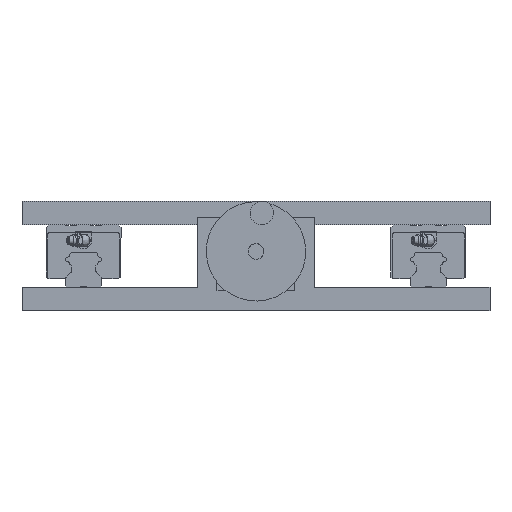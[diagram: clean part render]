
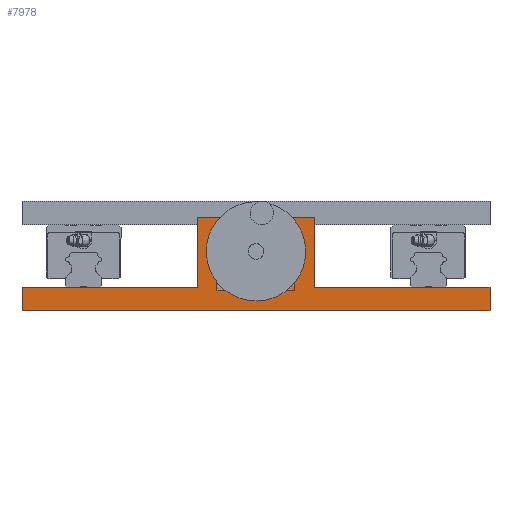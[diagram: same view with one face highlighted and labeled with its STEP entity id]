
A CAD part, front view. The second image highlights one B-rep face of the part: STEP entity #7978.
In plain terms, the highlighted planar face has unit normal (0, -1, 0).
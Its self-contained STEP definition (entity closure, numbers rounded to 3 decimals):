
#253 = EDGE_CURVE ( 'NONE', #56328, #46927, #52755, .T. ) ;
#443 = VECTOR ( 'NONE', #1271, 1000. ) ;
#868 = DIRECTION ( 'NONE',  ( 0., 0., -1. ) ) ;
#888 = VERTEX_POINT ( 'NONE', #60939 ) ;
#987 = DIRECTION ( 'NONE',  ( 0., 0., 1. ) ) ;
#1271 = DIRECTION ( 'NONE',  ( 0., 0., -1. ) ) ;
#1791 = VERTEX_POINT ( 'NONE', #61886 ) ;
#2612 = ORIENTED_EDGE ( 'NONE', *, *, #253, .F. ) ;
#3315 = DIRECTION ( 'NONE',  ( 0., 0., -1. ) ) ;
#3892 = EDGE_CURVE ( 'NONE', #32119, #888, #16204, .T. ) ;
#4120 = VECTOR ( 'NONE', #868, 1000. ) ;
#6223 = EDGE_LOOP ( 'NONE', ( #50605, #23091 ) ) ;
#7569 = VERTEX_POINT ( 'NONE', #28351 ) ;
#7978 = ADVANCED_FACE ( 'NONE', ( #68208, #54023 ), #32505, .F. ) ;
#8263 = LINE ( 'NONE', #58689, #55815 ) ;
#10223 = VECTOR ( 'NONE', #45923, 1000. ) ;
#10528 = ORIENTED_EDGE ( 'NONE', *, *, #20782, .F. ) ;
#11519 = DIRECTION ( 'NONE',  ( 0., 1., 0. ) ) ;
#14005 = CARTESIAN_POINT ( 'NONE',  ( -150., -166.5, 0. ) ) ;
#14101 = AXIS2_PLACEMENT_3D ( 'NONE', #64234, #54152, #32724 ) ;
#16034 = EDGE_LOOP ( 'NONE', ( #64115, #19926, #2612, #10528, #44721, #67369, #66351, #49034 ) ) ;
#16133 = VECTOR ( 'NONE', #3315, 1000. ) ;
#16204 = CIRCLE ( 'NONE', #14101, 5. ) ;
#18067 = CARTESIAN_POINT ( 'NONE',  ( 37.5, -166.5, 15. ) ) ;
#19749 = EDGE_CURVE ( 'NONE', #1791, #42549, #45293, .T. ) ;
#19926 = ORIENTED_EDGE ( 'NONE', *, *, #30913, .F. ) ;
#20782 = EDGE_CURVE ( 'NONE', #50425, #56328, #8263, .T. ) ;
#23091 = ORIENTED_EDGE ( 'NONE', *, *, #52927, .F. ) ;
#23372 = AXIS2_PLACEMENT_3D ( 'NONE', #32964, #27570, #987 ) ;
#25977 = DIRECTION ( 'NONE',  ( 1., 0., 0. ) ) ;
#27570 = DIRECTION ( 'NONE',  ( 0., -1., 0. ) ) ;
#27914 = DIRECTION ( 'NONE',  ( 1., 0., 0. ) ) ;
#28156 = CARTESIAN_POINT ( 'NONE',  ( 0., -166.5, 43. ) ) ;
#28351 = CARTESIAN_POINT ( 'NONE',  ( 150., -166.5, 0. ) ) ;
#30318 = LINE ( 'NONE', #45264, #16133 ) ;
#30913 = EDGE_CURVE ( 'NONE', #46927, #7569, #52119, .T. ) ;
#31216 = LINE ( 'NONE', #58644, #65390 ) ;
#32119 = VERTEX_POINT ( 'NONE', #28156 ) ;
#32505 = PLANE ( 'NONE',  #64041 ) ;
#32724 = DIRECTION ( 'NONE',  ( 0., 0., 1. ) ) ;
#32964 = CARTESIAN_POINT ( 'NONE',  ( 0., -166.5, 38. ) ) ;
#34674 = EDGE_CURVE ( 'NONE', #50814, #7569, #31216, .T. ) ;
#37047 = EDGE_CURVE ( 'NONE', #43713, #50425, #54343, .T. ) ;
#37501 = CARTESIAN_POINT ( 'NONE',  ( -37.5, -166.5, 60. ) ) ;
#38107 = CARTESIAN_POINT ( 'NONE',  ( -150., -166.5, 15. ) ) ;
#39512 = DIRECTION ( 'NONE',  ( 1., 0., 0. ) ) ;
#42549 = VERTEX_POINT ( 'NONE', #63130 ) ;
#42809 = EDGE_CURVE ( 'NONE', #1791, #50814, #30318, .T. ) ;
#43194 = DIRECTION ( 'NONE',  ( 0., 0., 1. ) ) ;
#43713 = VERTEX_POINT ( 'NONE', #37501 ) ;
#44721 = ORIENTED_EDGE ( 'NONE', *, *, #37047, .F. ) ;
#45264 = CARTESIAN_POINT ( 'NONE',  ( -150., -166.5, 15. ) ) ;
#45293 = LINE ( 'NONE', #52090, #61977 ) ;
#45849 = LINE ( 'NONE', #64778, #4120 ) ;
#45923 = DIRECTION ( 'NONE',  ( 1., 0., 0. ) ) ;
#46927 = VERTEX_POINT ( 'NONE', #57340 ) ;
#49034 = ORIENTED_EDGE ( 'NONE', *, *, #42809, .T. ) ;
#50425 = VERTEX_POINT ( 'NONE', #66946 ) ;
#50605 = ORIENTED_EDGE ( 'NONE', *, *, #3892, .F. ) ;
#50814 = VERTEX_POINT ( 'NONE', #14005 ) ;
#52090 = CARTESIAN_POINT ( 'NONE',  ( -150., -166.5, 15. ) ) ;
#52119 = LINE ( 'NONE', #59099, #443 ) ;
#52755 = LINE ( 'NONE', #57561, #10223 ) ;
#52927 = EDGE_CURVE ( 'NONE', #888, #32119, #65415, .T. ) ;
#54023 = FACE_OUTER_BOUND ( 'NONE', #16034, .T. ) ;
#54152 = DIRECTION ( 'NONE',  ( 0., -1., 0. ) ) ;
#54343 = LINE ( 'NONE', #54949, #57687 ) ;
#54949 = CARTESIAN_POINT ( 'NONE',  ( -37.5, -166.5, 60. ) ) ;
#55815 = VECTOR ( 'NONE', #63445, 1000. ) ;
#56328 = VERTEX_POINT ( 'NONE', #18067 ) ;
#57340 = CARTESIAN_POINT ( 'NONE',  ( 150., -166.5, 15. ) ) ;
#57561 = CARTESIAN_POINT ( 'NONE',  ( -150., -166.5, 15. ) ) ;
#57687 = VECTOR ( 'NONE', #27914, 1000. ) ;
#58644 = CARTESIAN_POINT ( 'NONE',  ( -150., -166.5, 0. ) ) ;
#58689 = CARTESIAN_POINT ( 'NONE',  ( 37.5, -166.5, 60. ) ) ;
#59099 = CARTESIAN_POINT ( 'NONE',  ( 150., -166.5, 15. ) ) ;
#60939 = CARTESIAN_POINT ( 'NONE',  ( 0., -166.5, 33. ) ) ;
#61886 = CARTESIAN_POINT ( 'NONE',  ( -150., -166.5, 15. ) ) ;
#61977 = VECTOR ( 'NONE', #25977, 1000. ) ;
#63130 = CARTESIAN_POINT ( 'NONE',  ( -37.5, -166.5, 15. ) ) ;
#63445 = DIRECTION ( 'NONE',  ( 0., 0., -1. ) ) ;
#63517 = EDGE_CURVE ( 'NONE', #43713, #42549, #45849, .T. ) ;
#64041 = AXIS2_PLACEMENT_3D ( 'NONE', #38107, #11519, #43194 ) ;
#64115 = ORIENTED_EDGE ( 'NONE', *, *, #34674, .T. ) ;
#64234 = CARTESIAN_POINT ( 'NONE',  ( 0., -166.5, 38. ) ) ;
#64778 = CARTESIAN_POINT ( 'NONE',  ( -37.5, -166.5, 60. ) ) ;
#65390 = VECTOR ( 'NONE', #39512, 1000. ) ;
#65415 = CIRCLE ( 'NONE', #23372, 5. ) ;
#66351 = ORIENTED_EDGE ( 'NONE', *, *, #19749, .F. ) ;
#66946 = CARTESIAN_POINT ( 'NONE',  ( 37.5, -166.5, 60. ) ) ;
#67369 = ORIENTED_EDGE ( 'NONE', *, *, #63517, .T. ) ;
#68208 = FACE_BOUND ( 'NONE', #6223, .T. ) ;
